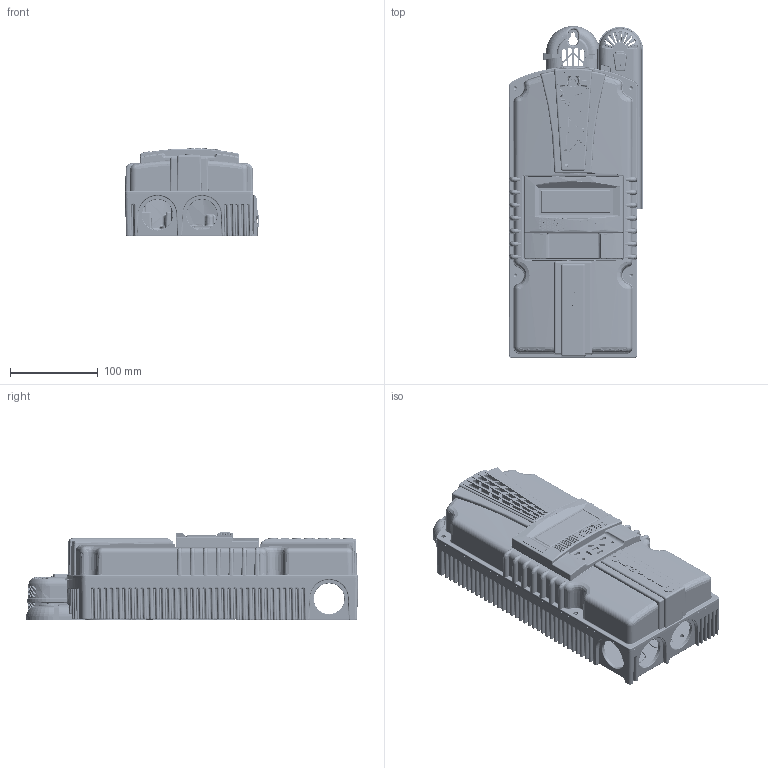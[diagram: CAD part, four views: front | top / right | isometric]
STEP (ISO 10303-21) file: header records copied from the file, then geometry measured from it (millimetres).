
FILE_DESCRIPTION((''),'2;1');
FILE_NAME('C:\Users\Bobq\Documents\Bob Q\40V unit\MN CLASSIC\MN CLASSIC ASSEMBLY\CLASSIC 150 VOLT PARTIAL ASSY 8.24.23 .stp','2023-08-24T12:46:45',('Bobq'),(''),'Autodesk Inventor 2012','Autodesk Inventor 2012','');
FILE_SCHEMA(('CONFIG_CONTROL_DESIGN'));
Length unit declared in the file: inch
Products named in the file (9): CLASSIC 150 VOLT PARTIAL ASSY (LevelofDetail2); 3-120-1 REV F CLASSIC BOTTOM; 3-121-1 REV C CLASSIC TOP COVER; 5-007-5 REV B CLASSIC LITE BLACK DISPLAY; 5-007-3 REV E CLASSIC DISPLAY WITH SPEAKER; 5-008-1 REV A MNBCM LED WINDOW; 5-013-2 REV A CLASSIC LITE BLACK LCD WINDOW; 5-027-1 REV A TURBO FAN BOTTOM; 5-028-1 REV A CLASSIC TURBO FAN TOP
Assembly tree (8 placements, depth 3):
  CLASSIC 150 VOLT PARTIAL ASSY (LevelofDetail2)
    3-120-1 REV F CLASSIC BOTTOM
    3-121-1 REV C CLASSIC TOP COVER
    5-007-5 REV B CLASSIC LITE BLACK DISPLAY
      5-007-3 REV E CLASSIC DISPLAY WITH SPEAKER
      5-008-1 REV A MNBCM LED WINDOW
      5-013-2 REV A CLASSIC LITE BLACK LCD WINDOW
    5-027-1 REV A TURBO FAN BOTTOM
    5-028-1 REV A CLASSIC TURBO FAN TOP
Bounding box: 152.55 x 378.59 x 100.39 mm (x, y, z)
Volume: 993753.8 mm3; surface area: 515514 mm2
Topology: 8 solids, 8 shells, 7869 faces, 20912 edges, 13040 vertices
Faces by surface type: plane 2434, bspline 1904, cylinder 1859, cone 1141, torus 402, sphere 129
Full cylindrical faces by diameter (mm): 0.002 x4, 0.02 x4, 2.642 x12, 2.845 x4, 4.134 x8
Entity records: 351647 total; most frequent: CARTESIAN_POINT 163733, ORIENTED_EDGE 40702, DIRECTION 37215, EDGE_CURVE 20351, AXIS2_PLACEMENT_3D 14554, VERTEX_POINT 12933, EDGE_LOOP 8599, VECTOR 8107
